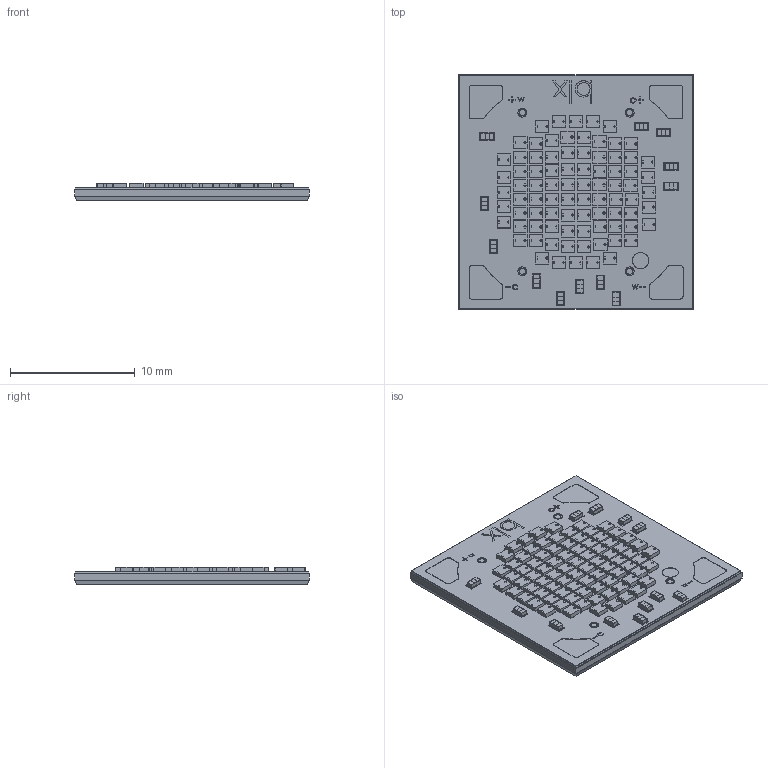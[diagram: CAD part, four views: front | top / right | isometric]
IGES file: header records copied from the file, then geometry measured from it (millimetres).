
Start section: SolidWorks IGES file using analytic representation for surfaces
Global section: file name: C:\Users\jiaqichen\Desktop\TW COB 13mm\Assembly\55-001190 Single Unit.IGS; native system: SolidWorks 2017; preprocessor: SolidWorks 2017; author: jiaqichen; date: 170705.153741; units: millimetre
Bounding box: 18.8 x 18.8 x 1.42 mm (x, y, z)
Surface area: 1910.1 mm2 (no closed solid volume)
Topology: 0 solids, 0 shells, 8559 faces, 41585 edges, 41345 vertices
Faces by surface type: bspline 7699, revolution 860
